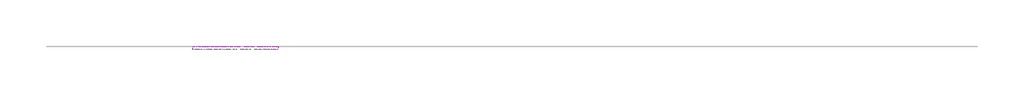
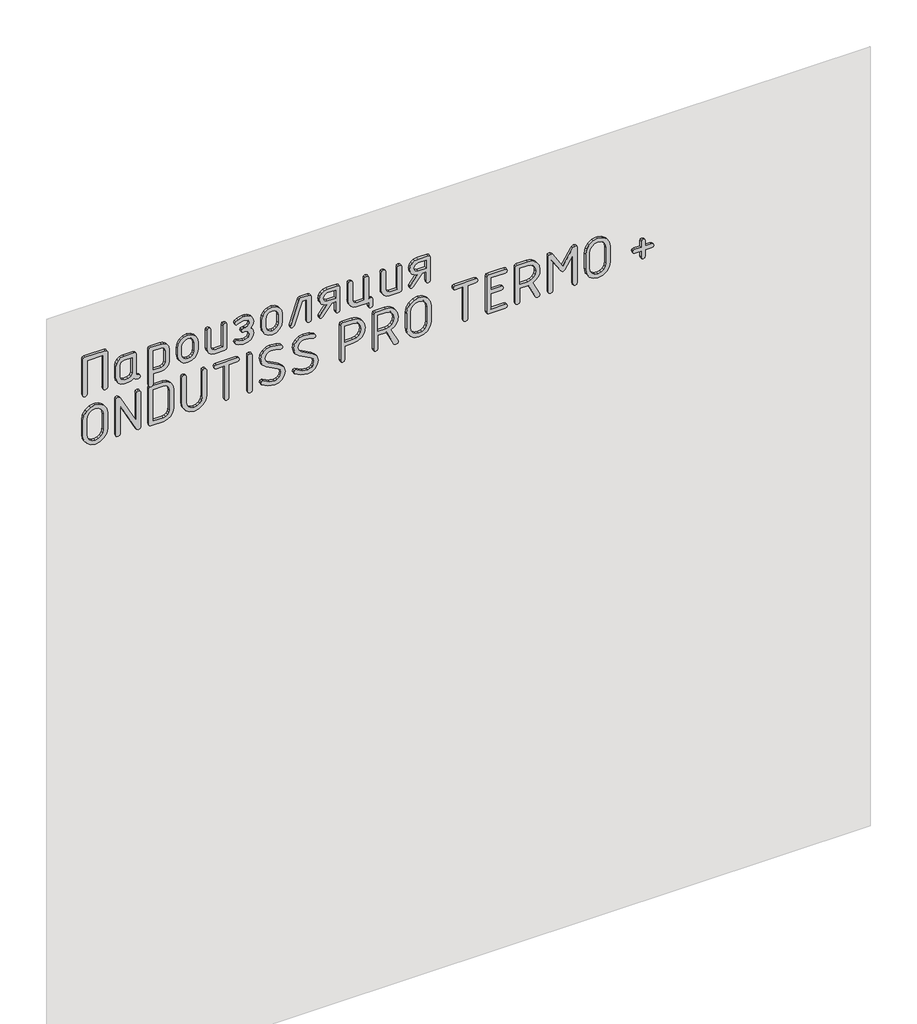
# One storey, part 30 of 42: 1 proxy.
"""IFC4 building model written with IfcOpenShell, lengths in millimetres."""

from ifc_helpers import new_model, si_unit, frame, origin, place, context, project, spatial, polyline, outline, extrude, element, save

model = new_model("IFC4")

# Units and contexts
model_context = context("Model", 3, world=origin())
ifc_project = project(units=[si_unit("LENGTHUNIT", "METRE", prefix="MILLI")], contexts=[model_context])

# Site, building, storey
site = spatial("IfcSite", under=ifc_project)
building = spatial("IfcBuilding", under=site)
storey = spatial("IfcBuildingStorey", under=building, Name="Этаж 01", Elevation=0.0)

# Proxy
placement = place(None, origin())
element("IfcBuildingElementProxy", 1, Name="150 мм GOST Common", ObjectType="150 мм GOST Common", at=placement, inside=storey, context=model_context, shape_type="SweptSolid", body=[
    extrude(outline(polyline([(2813.534126, -10703.1472358), (2811.6464128, -10708.750448), (2805.9832732, -10710.6181854), (2670.2277293, -10710.6181854), (2664.5645897, -10708.7005085), (2662.6768765, -10702.9474778), (2664.5546018, -10697.1944471), (2670.1877777, -10695.2767702), (2798.1927108, -10695.2767702), (2798.1927108, -10636.468012), (2670.1877777, -10636.468012), (2664.5546018, -10634.5503351), (2662.6768765, -10628.7973044), (2664.5645897, -10623.0442737), (2670.2277293, -10621.1265968), (2805.9832732, -10621.1265968), (2811.6464128, -10622.9943342), (2813.534126, -10628.5975464), (2813.534126, -10703.1472358)])), frame((0.0, -24838.3929597, 0.0), z_axis=(0.0, 1.0, 0.0), x_axis=(0.0, 0.0, 1.0)), (0.0, 0.0, 1.0), 10.0),
    extrude(outline(polyline([(2670.1478261, -10501.3117421), (2675.781002, -10503.1844735), (2677.6587273, -10508.8026675), (2679.5264647, -10514.4208616), (2685.1296769, -10516.2935929), (2760.0389308, -10516.2935929), (2765.642143, -10518.1513424), (2767.5098804, -10523.7245909), (2767.5098804, -10560.7996776), (2765.342506, -10572.2957511), (2758.8403827, -10581.8541719), (2749.1820829, -10588.2963678), (2737.5461788, -10590.4437664), (2692.6405781, -10590.4437664), (2681.004674, -10588.2963678), (2671.3463742, -10581.8541719), (2664.8442509, -10572.2957511), (2662.6768765, -10560.7996776), (2662.6768765, -10545.9376817), (2664.6644687, -10534.960979), (2670.6272453, -10525.8420258), (2664.6644687, -10518.2612093), (2662.6768765, -10508.7826917), (2664.5446139, -10503.1794795), (2670.1478261, -10501.3117421)]), holes=[polyline([(2752.1684652, -10531.6350081), (2692.8403361, -10531.6350081), (2682.3530405, -10535.8698779), (2678.0182917, -10546.1374397), (2678.0182917, -10560.5999196), (2682.3929921, -10570.8275298), (2692.8403361, -10575.1023512), (2737.3464208, -10575.1023512), (2747.8337163, -10570.8674814), (2752.1684652, -10560.5999196), (2752.1684652, -10531.6350081)])]), frame((0.0, -24838.3929597, 0.0), z_axis=(0.0, 1.0, 0.0), x_axis=(0.0, 0.0, 1.0)), (0.0, 0.0, 1.0), 10.0),
    extrude(outline(polyline([(2759.9590276, -10470.2693473), (2624.2034837, -10470.2693473), (2618.5403441, -10468.3516704), (2616.6526309, -10462.5986397), (2618.5703078, -10456.845609), (2624.3233385, -10454.9279321), (2662.6768765, -10454.9279321), (2662.6768765, -10425.523553), (2664.8592328, -10414.1323525), (2671.4063016, -10404.6488409), (2681.0795832, -10398.2515906), (2692.6405781, -10396.1191739), (2737.5461788, -10396.1191739), (2749.1820829, -10398.2665725), (2758.8403827, -10404.7087683), (2765.342506, -10414.2671891), (2767.5098804, -10425.7632626), (2767.5098804, -10462.8383493), (2765.6221672, -10468.4115978), (2759.9590276, -10470.2693473)]), holes=[polyline([(2752.1684652, -10454.9279321), (2752.1684652, -10425.9630206), (2747.8936437, -10415.6355315), (2737.3464208, -10411.4605891), (2692.8403361, -10411.4605891), (2682.3530405, -10415.6954589), (2678.0182917, -10425.9630206), (2678.0182917, -10454.9279321), (2752.1684652, -10454.9279321)])]), frame((0.0, -24838.3929597, 0.0), z_axis=(0.0, 1.0, 0.0), x_axis=(0.0, 0.0, 1.0)), (0.0, 0.0, 1.0), 10.0),
    extrude(outline(polyline([(2700.1115277, -10365.4363435), (2685.718963, -10362.7246285), (2673.6236155, -10354.5894835), (2665.4135613, -10342.6089968), (2662.6768765, -10328.3612568), (2665.4135613, -10314.1135167), (2673.6236155, -10302.13303), (2685.718963, -10293.997885), (2700.1115277, -10291.28617), (2730.0752292, -10291.28617), (2744.6176124, -10293.9679213), (2756.6829962, -10302.0131752), (2764.8031593, -10313.9636982), (2767.5098804, -10328.3612568), (2764.7731956, -10342.6089968), (2756.5631414, -10354.5894835), (2744.4677939, -10362.7246285), (2730.0752292, -10365.4363435), (2700.1115277, -10365.4363435)]), holes=[polyline([(2700.5509953, -10306.6275852), (2691.8914855, -10308.2206554), (2684.6103061, -10312.9998658), (2679.6662953, -10320.0263538), (2678.0182917, -10328.3612568), (2679.6563074, -10336.771069), (2684.5703545, -10343.7825752), (2691.841546, -10348.51684), (2700.5509953, -10350.0949283), (2730.5546484, -10350.0949283), (2739.1841945, -10348.5018582), (2746.4553861, -10343.7226478), (2751.3993968, -10336.6961597), (2753.0474004, -10328.3612568), (2751.3993968, -10320.0263538), (2746.4553861, -10312.9998658), (2739.1841945, -10308.2206554), (2730.5546484, -10306.6275852), (2700.5509953, -10306.6275852)])]), frame((0.0, -24838.3929597, 0.0), z_axis=(0.0, 1.0, 0.0), x_axis=(0.0, 0.0, 1.0)), (0.0, 0.0, 1.0), 10.0),
    extrude(outline(polyline([(2760.0389308, -10186.4531662), (2765.642143, -10188.3708431), (2767.5098804, -10194.1238738), (2765.642143, -10199.8769045), (2760.0389308, -10201.7945814), (2678.0182917, -10201.7945814), (2678.0182917, -10230.7594929), (2682.4329437, -10240.987103), (2692.9202393, -10245.2619244), (2760.0389308, -10245.2619244), (2765.642143, -10247.1796013), (2767.5098804, -10252.932632), (2765.642143, -10258.6856627), (2760.0389308, -10260.6033396), (2692.6405781, -10260.6033396), (2681.004674, -10258.455941), (2671.3463742, -10252.0137452), (2664.8442509, -10242.4553244), (2662.6768765, -10230.9592509), (2662.6768765, -10193.8841642), (2664.5446139, -10188.3109157), (2670.1478261, -10186.4531662), (2760.0389308, -10186.4531662)])), frame((0.0, -24838.3929597, 0.0), z_axis=(0.0, 1.0, 0.0), x_axis=(0.0, 0.0, 1.0)), (0.0, 0.0, 1.0), 10.0),
    extrude(outline(polyline([(2693.3996585, -10104.6322851), (2682.5128469, -10109.0069856), (2678.0182917, -10119.6540875), (2678.0182917, -10127.1649887), (2681.8336697, -10142.2067669), (2685.6490477, -10151.335708), (2682.9323388, -10155.450723), (2677.6587273, -10157.1686419), (2671.7059386, -10154.1223322), (2666.6320851, -10144.9834032), (2662.6768765, -10127.1649887), (2662.6768765, -10119.6540875), (2664.8991844, -10107.9682439), (2671.566108, -10098.1601256), (2681.4591234, -10091.5081838), (2693.3597069, -10089.2908699), (2707.1829612, -10091.9376636), (2716.3718297, -10099.8780445), (2725.0113637, -10091.9376636), (2738.3052592, -10089.2908699), (2749.6215505, -10091.5081838), (2759.0401407, -10098.1601256), (2765.3924455, -10107.9682439), (2767.5098804, -10119.6540875), (2767.5098804, -10127.1649887), (2763.434817, -10144.8635484), (2758.2710724, -10154.0923685), (2752.5280296, -10157.1686419), (2747.2743939, -10155.450723), (2744.5377092, -10151.4555628), (2748.3530872, -10142.5463555), (2752.1684652, -10127.1649887), (2752.1684652, -10119.6540875), (2748.1133776, -10108.967034), (2738.1055012, -10104.6322851), (2728.0976249, -10108.6673969), (2724.0425373, -10120.3332647), (2724.0425373, -10122.7303609), (2724.0425373, -10125.0076022), (2721.7852718, -10132.4186244), (2716.3318781, -10134.6359383), (2710.8984602, -10132.4785518), (2708.7011221, -10127.1649887), (2708.7011221, -10117.496701), (2704.7459135, -10108.6274453), (2693.3996585, -10104.6322851)])), frame((0.0, -24838.3929597, 0.0), z_axis=(0.0, 1.0, 0.0), x_axis=(0.0, 0.0, 1.0)), (0.0, 0.0, 1.0), 10.0),
    extrude(outline(polyline([(2700.1115277, -10058.6080395), (2685.718963, -10055.8963245), (2673.6236155, -10047.7611796), (2665.4135613, -10035.7806929), (2662.6768765, -10021.5329528), (2665.4135613, -10007.2852127), (2673.6236155, -9995.304726), (2685.718963, -9987.1695811), (2700.1115277, -9984.4578661), (2730.0752292, -9984.4578661), (2744.6176124, -9987.1396174), (2756.6829962, -9995.1848712), (2764.8031593, -10007.1353942), (2767.5098804, -10021.5329528), (2764.7731956, -10035.7806929), (2756.5631414, -10047.7611796), (2744.4677939, -10055.8963245), (2730.0752292, -10058.6080395), (2700.1115277, -10058.6080395)]), holes=[polyline([(2700.5509953, -9999.7992813), (2691.8914855, -10001.3923514), (2684.6103061, -10006.1715618), (2679.6662953, -10013.1980498), (2678.0182917, -10021.5329528), (2679.6563074, -10029.942765), (2684.5703545, -10036.9542712), (2691.841546, -10041.6885361), (2700.5509953, -10043.2666243), (2730.5546484, -10043.2666243), (2739.1841945, -10041.6735542), (2746.4553861, -10036.8943438), (2751.3993968, -10029.8678558), (2753.0474004, -10021.5329528), (2751.3993968, -10013.1980498), (2746.4553861, -10006.1715618), (2739.1841945, -10001.3923514), (2730.5546484, -9999.7992813), (2700.5509953, -9999.7992813)])]), frame((0.0, -24838.3929597, 0.0), z_axis=(0.0, 1.0, 0.0), x_axis=(0.0, 0.0, 1.0)), (0.0, 0.0, 1.0), 10.0),
    extrude(outline(polyline([(2767.5098804, -9917.4590294), (2765.9817316, -9922.0534636), (2761.3972852, -9924.9699306), (2672.5449222, -9954.6140193), (2670.2676809, -9954.9735837), (2664.5745776, -9953.0958584), (2662.6768765, -9947.4626826), (2667.75073, -9940.391249), (2752.1684652, -9912.1055147), (2752.1684652, -9894.9662774), (2670.1478261, -9894.9662774), (2664.5446139, -9893.0486005), (2662.6768765, -9887.2955698), (2664.5446139, -9881.5425391), (2670.1478261, -9879.6248622), (2760.0389308, -9879.6248622), (2765.642143, -9881.5425391), (2767.5098804, -9887.2955698), (2767.5098804, -9917.4590294)])), frame((0.0, -24838.3929597, 0.0), z_axis=(0.0, 1.0, 0.0), x_axis=(0.0, 0.0, 1.0)), (0.0, 0.0, 1.0), 10.0),
    extrude(outline(polyline([(2707.8221869, -9823.4129581), (2674.7023087, -9848.6623706), (2670.1478261, -9850.1405799), (2664.5446139, -9848.2628546), (2662.6768765, -9842.6296787), (2665.7531499, -9836.5969868), (2707.6623805, -9805.354834), (2707.6623805, -9790.1332736), (2670.1877777, -9790.1332736), (2664.5546018, -9788.2155967), (2662.6768765, -9782.462566), (2664.5446139, -9776.7095353), (2670.1478261, -9774.7918584), (2760.0389308, -9774.7918584), (2765.642143, -9776.7095353), (2767.5098804, -9782.462566), (2767.5098804, -9820.1369267), (2765.342506, -9831.752855), (2758.8403827, -9841.4311306), (2749.1820829, -9847.9632176), (2737.5461788, -9850.1405799), (2726.784216, -9848.2478727), (2717.5903536, -9842.5697513), (2710.9434058, -9833.9951387), (2707.8221869, -9823.4129581)]), holes=[polyline([(2737.1466628, -9835.1187775), (2747.7937647, -9830.7440771), (2752.1684652, -9820.1369267), (2752.1684652, -9790.1332736), (2722.164812, -9790.1332736), (2722.164812, -9820.1369267), (2726.5994398, -9830.6841497), (2737.1466628, -9835.1187775)])]), frame((0.0, -24838.3929597, 0.0), z_axis=(0.0, 1.0, 0.0), x_axis=(0.0, 0.0, 1.0)), (0.0, 0.0, 1.0), 10.0),
    extrude(outline(polyline([(2678.0182917, -9662.2881469), (2678.0182917, -9669.9588545), (2760.0389308, -9669.9588545), (2765.642143, -9671.8765314), (2767.5098804, -9677.6295621), (2765.642143, -9683.3825928), (2760.0389308, -9685.3002697), (2678.0182917, -9685.3002697), (2678.0182917, -9714.2651812), (2682.4329437, -9724.4927914), (2692.9202393, -9728.7676128), (2760.0389308, -9728.7676128), (2765.642143, -9730.6852897), (2767.5098804, -9736.4383204), (2765.642143, -9742.1913511), (2760.0389308, -9744.109028), (2692.6405781, -9744.109028), (2681.0795832, -9741.9616294), (2671.4063016, -9735.5194335), (2664.8592328, -9725.9610127), (2662.6768765, -9714.4649392), (2662.6768765, -9669.9588545), (2647.3354613, -9669.9588545), (2641.5824306, -9668.0411776), (2639.6647537, -9662.2881469), (2641.5824306, -9656.5351162), (2647.3354613, -9654.6174393), (2670.3475841, -9654.6174393), (2676.1006148, -9656.5351162), (2678.0182917, -9662.2881469)])), frame((0.0, -24838.3929597, 0.0), z_axis=(0.0, 1.0, 0.0), x_axis=(0.0, 0.0, 1.0)), (0.0, 0.0, 1.0), 10.0),
    extrude(outline(polyline([(2760.0389308, -9549.7844355), (2765.642143, -9551.7021124), (2767.5098804, -9557.4551431), (2765.642143, -9563.2081738), (2760.0389308, -9565.1258507), (2678.0182917, -9565.1258507), (2678.0182917, -9594.0907622), (2682.4329437, -9604.3183723), (2692.9202393, -9608.5931937), (2760.0389308, -9608.5931937), (2765.642143, -9610.5108706), (2767.5098804, -9616.2639013), (2765.642143, -9622.016932), (2760.0389308, -9623.9346089), (2692.6405781, -9623.9346089), (2681.004674, -9621.7872103), (2671.3463742, -9615.3450145), (2664.8442509, -9605.7865937), (2662.6768765, -9594.2905202), (2662.6768765, -9557.2154335), (2664.5446139, -9551.642185), (2670.1478261, -9549.7844355), (2760.0389308, -9549.7844355)])), frame((0.0, -24838.3929597, 0.0), z_axis=(0.0, 1.0, 0.0), x_axis=(0.0, 0.0, 1.0)), (0.0, 0.0, 1.0), 10.0),
    extrude(outline(polyline([(2707.8221869, -9493.5725314), (2674.7023087, -9518.8219439), (2670.1478261, -9520.3001532), (2664.5446139, -9518.4224279), (2662.6768765, -9512.789252), (2665.7531499, -9506.75656), (2707.6623805, -9475.5144072), (2707.6623805, -9460.2928468), (2670.1877777, -9460.2928468), (2664.5546018, -9458.3751699), (2662.6768765, -9452.6221392), (2664.5446139, -9446.8691085), (2670.1478261, -9444.9514316), (2760.0389308, -9444.9514316), (2765.642143, -9446.8691085), (2767.5098804, -9452.6221392), (2767.5098804, -9490.2965), (2765.342506, -9501.9124283), (2758.8403827, -9511.5907039), (2749.1820829, -9518.1227908), (2737.5461788, -9520.3001532), (2726.784216, -9518.407446), (2717.5903536, -9512.7293246), (2710.9434058, -9504.154712), (2707.8221869, -9493.5725314)]), holes=[polyline([(2737.1466628, -9505.2783508), (2747.7937647, -9500.9036503), (2752.1684652, -9490.2965), (2752.1684652, -9460.2928468), (2722.164812, -9460.2928468), (2722.164812, -9490.2965), (2726.5994398, -9500.8437229), (2737.1466628, -9505.2783508)])]), frame((0.0, -24838.3929597, 0.0), z_axis=(0.0, 1.0, 0.0), x_axis=(0.0, 0.0, 1.0)), (0.0, 0.0, 1.0), 10.0),
    extrude(outline(polyline([(2511.9177961, -10621.1265968), (2572.2447152, -10621.1265968), (2589.6885835, -10624.3876463), (2604.3058759, -10634.1707949), (2614.2088792, -10648.618293), (2617.5098804, -10665.8723911), (2614.1938974, -10683.05158), (2604.2459485, -10697.5140599), (2589.6136742, -10707.3421541), (2572.2447152, -10710.6181854), (2511.9177961, -10710.6181854), (2494.5488371, -10707.3421541), (2479.9165628, -10697.5140599), (2469.9686139, -10683.05158), (2466.6526309, -10665.8723911), (2469.9686139, -10648.6932022), (2479.9165628, -10634.2307223), (2494.5488371, -10624.4026281), (2511.9177961, -10621.1265968)]), holes=[polyline([(2512.0376509, -10636.468012), (2500.3917589, -10638.6004287), (2490.7034954, -10644.997679), (2484.1714084, -10654.4811906), (2481.9940461, -10665.8723911), (2484.1714084, -10677.2635916), (2490.7034954, -10686.7471032), (2500.3917589, -10693.1443535), (2512.0376509, -10695.2767702), (2572.1248604, -10695.2767702), (2583.7707524, -10693.1443535), (2593.4590159, -10686.7471032), (2599.9911029, -10677.2635916), (2602.1684652, -10665.8723911), (2599.9911029, -10654.4811906), (2593.4590159, -10644.997679), (2583.7707524, -10638.6004287), (2572.1248604, -10636.468012), (2512.0376509, -10636.468012)])]), frame((0.0, -24838.3929597, 0.0), z_axis=(0.0, 1.0, 0.0), x_axis=(0.0, 0.0, 1.0)), (0.0, 0.0, 1.0), 10.0),
    extrude(outline(polyline([(2503.3282016, -10516.2935929), (2613.0353009, -10575.1023512), (2617.5098804, -10582.453446), (2615.6221672, -10588.4461863), (2609.9590276, -10590.4437664), (2474.2034837, -10590.4437664), (2468.5403441, -10588.5260895), (2466.6526309, -10582.7730588), (2468.5403441, -10577.0200281), (2474.2034837, -10575.1023512), (2580.9541645, -10575.1023512), (2470.4080815, -10516.2935929), (2466.6526309, -10509.1023046), (2468.5403441, -10502.9897094), (2474.2034837, -10500.9521777), (2609.9590276, -10500.9521777), (2615.6221672, -10502.8698546), (2617.5098804, -10508.6228853), (2615.6221672, -10514.375916), (2609.9590276, -10516.2935929), (2503.3282016, -10516.2935929)])), frame((0.0, -24838.3929597, 0.0), z_axis=(0.0, 1.0, 0.0), x_axis=(0.0, 0.0, 1.0)), (0.0, 0.0, 1.0), 10.0),
    extrude(outline(polyline([(2609.9590276, -10470.2693473), (2474.2034837, -10470.2693473), (2468.5403441, -10468.4016099), (2466.6526309, -10462.7983977), (2466.6526309, -10418.0526034), (2469.4092915, -10403.7299541), (2477.6792731, -10391.684546), (2489.8645117, -10383.5044555), (2504.3669433, -10380.7777587), (2579.795568, -10380.7777587), (2594.4478181, -10383.4744918), (2606.603093, -10391.5646912), (2614.7831835, -10403.5801356), (2617.5098804, -10418.0526034), (2617.5098804, -10462.7983977), (2615.6221672, -10468.4016099), (2609.9590276, -10470.2693473)]), holes=[polyline([(2602.1684652, -10454.9279321), (2602.1684652, -10418.1724582), (2600.5204616, -10409.6977246), (2595.5764508, -10402.5713576), (2588.2952713, -10397.7322198), (2579.6357616, -10396.1191739), (2504.5267497, -10396.1191739), (2495.8672399, -10397.7322198), (2488.5860605, -10402.5713576), (2483.6420497, -10409.6977246), (2481.9940461, -10418.1724582), (2481.9940461, -10454.9279321), (2602.1684652, -10454.9279321)])]), frame((0.0, -24838.3929597, 0.0), z_axis=(0.0, 1.0, 0.0), x_axis=(0.0, 0.0, 1.0)), (0.0, 0.0, 1.0), 10.0),
    extrude(outline(polyline([(2609.9590276, -10260.6033396), (2615.6221672, -10262.5210165), (2617.5098804, -10268.2740472), (2615.6321551, -10274.0270779), (2609.9989792, -10275.9447548), (2512.1175541, -10275.9447548), (2500.4367044, -10278.0771716), (2490.7234712, -10284.4744219), (2484.1764024, -10293.9579334), (2481.9940461, -10305.349134), (2484.1764024, -10316.7403345), (2490.7234712, -10326.223846), (2500.4367044, -10332.6210963), (2512.1175541, -10334.7535131), (2609.9989792, -10334.7535131), (2615.6321551, -10336.67119), (2617.5098804, -10342.4242207), (2615.6221672, -10348.1772514), (2609.9590276, -10350.0949283), (2511.9177961, -10350.0949283), (2494.5488371, -10346.8188969), (2479.9165628, -10336.9908028), (2469.9686139, -10322.5283229), (2466.6526309, -10305.349134), (2469.9686139, -10288.1699451), (2479.9165628, -10273.7074651), (2494.5488371, -10263.879371), (2511.9177961, -10260.6033396), (2609.9590276, -10260.6033396)])), frame((0.0, -24838.3929597, 0.0), z_axis=(0.0, 1.0, 0.0), x_axis=(0.0, 0.0, 1.0)), (0.0, 0.0, 1.0), 10.0),
    extrude(outline(polyline([(2609.8391728, -10231.6384281), (2604.0861421, -10229.7607028), (2602.1684652, -10224.1275269), (2602.1684652, -10194.1238738), (2474.1635321, -10194.1238738), (2468.5303562, -10192.2061969), (2466.6526309, -10186.4531662), (2468.5303562, -10180.7001355), (2474.1635321, -10178.7824586), (2602.1684652, -10178.7824586), (2602.1684652, -10148.7788054), (2604.0861421, -10143.1755932), (2609.8391728, -10141.3078558), (2615.5922035, -10143.1755932), (2617.5098804, -10148.7788054), (2617.5098804, -10224.1275269), (2615.5922035, -10229.7607028), (2609.8391728, -10231.6384281)])), frame((0.0, -24838.3929597, 0.0), z_axis=(0.0, 1.0, 0.0), x_axis=(0.0, 0.0, 1.0)), (0.0, 0.0, 1.0), 10.0),
    extrude(outline(polyline([(2466.6526309, -10102.0753826), (2468.5403441, -10096.3223519), (2474.2034837, -10094.404675), (2609.9590276, -10094.404675), (2615.6221672, -10096.3223519), (2617.5098804, -10102.0753826), (2615.6221672, -10107.8284133), (2609.9590276, -10109.7460902), (2474.2034837, -10109.7460902), (2468.5403441, -10107.8284133), (2466.6526309, -10102.0753826)])), frame((0.0, -24838.3929597, 0.0), z_axis=(0.0, 1.0, 0.0), x_axis=(0.0, 0.0, 1.0)), (0.0, 0.0, 1.0), 10.0),
    extrude(outline(polyline([(2504.2870401, -9974.2302559), (2524.1429863, -9979.3140973), (2537.8463858, -9994.5656214), (2559.5001542, -10036.2351424), (2567.6602689, -10045.3441076), (2579.59581, -10048.3804294), (2588.2603137, -10046.7673835), (2595.556475, -10041.9282457), (2600.5154676, -10034.8018786), (2602.1684652, -10026.3271451), (2600.4904979, -10009.567448), (2595.456596, -9992.6878961), (2594.657564, -9989.5716711), (2596.8748779, -9984.2780839), (2602.1684652, -9982.06077), (2609.1599955, -9986.4953978), (2615.4224092, -10003.4648408), (2617.5098804, -10026.6467579), (2614.7432319, -10040.8195887), (2606.4432866, -10052.8150572), (2594.2680359, -10060.9951478), (2579.8754712, -10063.7218446), (2560.0494887, -10058.6979306), (2546.4359803, -10043.6261888), (2524.7822119, -10001.9167162), (2516.5322061, -9992.6579324), (2504.5667013, -9989.5716711), (2495.9021976, -9991.1996989), (2488.6060363, -9996.0837823), (2483.6470437, -10003.2750707), (2481.9940461, -10011.8247135), (2485.1901743, -10031.6007565), (2495.657494, -10052.0559768), (2497.0158485, -10056.2908466), (2494.7985346, -10061.5245065), (2489.5049473, -10063.7218446), (2483.3923522, -10060.4458132), (2470.8375612, -10037.5235815), (2466.6526309, -10011.5051007), (2469.4192794, -9997.2573606), (2477.7192247, -9985.1969707), (2489.8944754, -9976.9719346), (2504.2870401, -9974.2302559)])), frame((0.0, -24838.3929597, 0.0), z_axis=(0.0, 1.0, 0.0), x_axis=(0.0, 0.0, 1.0)), (0.0, 0.0, 1.0), 10.0),
    extrude(outline(polyline([(2504.2870401, -9854.0558369), (2524.1429863, -9859.1396783), (2537.8463858, -9874.3912024), (2559.5001542, -9916.0607233), (2567.6602689, -9925.1696886), (2579.59581, -9928.2060104), (2588.2603137, -9926.5929644), (2595.556475, -9921.7538266), (2600.5154676, -9914.6274596), (2602.1684652, -9906.152726), (2600.4904979, -9889.3930289), (2595.456596, -9872.5134771), (2594.657564, -9869.3972521), (2596.8748779, -9864.1036648), (2602.1684652, -9861.8863509), (2609.1599955, -9866.3209787), (2615.4224092, -9883.2904217), (2617.5098804, -9906.4723388), (2614.7432319, -9920.6451697), (2606.4432866, -9932.6406382), (2594.2680359, -9940.8207287), (2579.8754712, -9943.5474256), (2560.0494887, -9938.5235116), (2546.4359803, -9923.4517697), (2524.7822119, -9881.7422971), (2516.5322061, -9872.4835134), (2504.5667013, -9869.3972521), (2495.9021976, -9871.0252799), (2488.6060363, -9875.9093632), (2483.6470437, -9883.1006516), (2481.9940461, -9891.6502945), (2485.1901743, -9911.4263375), (2495.657494, -9931.8815577), (2497.0158485, -9936.1164276), (2494.7985346, -9941.3500874), (2489.5049473, -9943.5474256), (2483.3923522, -9940.2713942), (2470.8375612, -9917.3491625), (2466.6526309, -9891.3306816), (2469.4192794, -9877.0829415), (2477.7192247, -9865.0225517), (2489.8944754, -9856.7975156), (2504.2870401, -9854.0558369)])), frame((0.0, -24838.3929597, 0.0), z_axis=(0.0, 1.0, 0.0), x_axis=(0.0, 0.0, 1.0)), (0.0, 0.0, 1.0), 10.0),
    extrude(outline(polyline([(2617.5098804, -9764.7640063), (2615.6221672, -9770.3672185), (2609.9590276, -9772.2349558), (2474.2034837, -9772.2349558), (2468.5403441, -9770.3172789), (2466.6526309, -9764.5642482), (2468.4904046, -9758.8112175), (2474.0037257, -9756.8935406), (2525.4613892, -9756.8935406), (2525.4613892, -9727.2494519), (2528.6575173, -9709.3261644), (2538.2459018, -9695.108388), (2552.9480914, -9685.8346224), (2571.4856348, -9682.7433672), (2589.2241461, -9686.0044167), (2604.0861421, -9695.7875653), (2614.1539458, -9710.2350634), (2617.5098804, -9727.4891615), (2617.5098804, -9764.7640063)]), holes=[polyline([(2602.1684652, -9756.8935406), (2602.1684652, -9727.4891615), (2599.9461573, -9716.097961), (2593.2792337, -9706.6144494), (2583.3862182, -9700.2171992), (2571.4856348, -9698.0847824), (2559.5850513, -9700.2171992), (2549.6920358, -9706.6144494), (2543.0251122, -9716.097961), (2540.8028044, -9727.4891615), (2540.8028044, -9756.8935406), (2602.1684652, -9756.8935406)])]), frame((0.0, -24838.3929597, 0.0), z_axis=(0.0, 1.0, 0.0), x_axis=(0.0, 0.0, 1.0)), (0.0, 0.0, 1.0), 10.0),
    extrude(outline(polyline([(2530.1756782, -9588.7372475), (2536.8800565, -9577.2886165), (2546.1263554, -9569.111023), (2557.9145749, -9564.2044669), (2572.2447152, -9562.5689481), (2589.6885835, -9565.8299977), (2604.3058759, -9575.6131462), (2614.2088792, -9590.0606443), (2617.5098804, -9607.3147425), (2617.5098804, -9644.5895872), (2615.6221672, -9650.1927994), (2609.9590276, -9652.0605368), (2474.2034837, -9652.0605368), (2468.5403441, -9650.1428599), (2466.6526309, -9644.3898292), (2468.4904046, -9638.6367985), (2474.0037257, -9636.7191216), (2525.4613892, -9636.7191216), (2525.4613892, -9607.6343553), (2525.581244, -9604.9975496), (2470.7676459, -9577.9103633), (2466.6526309, -9570.5992202), (2468.9298722, -9565.0059959), (2474.2034837, -9562.5689481), (2477.6393215, -9562.5689481), (2530.1756782, -9588.7372475)]), holes=[polyline([(2602.1684652, -9636.7191216), (2602.1684652, -9607.3147425), (2599.9461573, -9595.9235419), (2593.2792337, -9586.4400304), (2583.3862182, -9580.0427801), (2571.4856348, -9577.9103633), (2559.5850513, -9580.0427801), (2549.6920358, -9586.4400304), (2543.0251122, -9595.9235419), (2540.8028044, -9607.3147425), (2540.8028044, -9636.7191216), (2602.1684652, -9636.7191216)])]), frame((0.0, -24838.3929597, 0.0), z_axis=(0.0, 1.0, 0.0), x_axis=(0.0, 0.0, 1.0)), (0.0, 0.0, 1.0), 10.0),
    extrude(outline(polyline([(2511.9177961, -9442.3945291), (2572.2447152, -9442.3945291), (2589.6885835, -9445.6555786), (2604.3058759, -9455.4387272), (2614.2088792, -9469.8862253), (2617.5098804, -9487.1403234), (2614.1938974, -9504.3195123), (2604.2459485, -9518.7819923), (2589.6136742, -9528.6100864), (2572.2447152, -9531.8861178), (2511.9177961, -9531.8861178), (2494.5488371, -9528.6100864), (2479.9165628, -9518.7819923), (2469.9686139, -9504.3195123), (2466.6526309, -9487.1403234), (2469.9686139, -9469.9611345), (2479.9165628, -9455.4986546), (2494.5488371, -9445.6705605), (2511.9177961, -9442.3945291)]), holes=[polyline([(2512.0376509, -9457.7359443), (2500.3917589, -9459.8683611), (2490.7034954, -9466.2656113), (2484.1714084, -9475.7491229), (2481.9940461, -9487.1403234), (2484.1714084, -9498.531524), (2490.7034954, -9508.0150355), (2500.3917589, -9514.4122858), (2512.0376509, -9516.5447026), (2572.1248604, -9516.5447026), (2583.7707524, -9514.4122858), (2593.4590159, -9508.0150355), (2599.9911029, -9498.531524), (2602.1684652, -9487.1403234), (2599.9911029, -9475.7491229), (2593.4590159, -9466.2656113), (2583.7707524, -9459.8683611), (2572.1248604, -9457.7359443), (2512.0376509, -9457.7359443)])]), frame((0.0, -24838.3929597, 0.0), z_axis=(0.0, 1.0, 0.0), x_axis=(0.0, 0.0, 1.0)), (0.0, 0.0, 1.0), 10.0),
    extrude(outline(polyline([(2609.8391728, -9362.2915669), (2604.0861421, -9360.4138416), (2602.1684652, -9354.7806657), (2602.1684652, -9324.7770126), (2474.1635321, -9324.7770126), (2468.5303562, -9322.8593357), (2466.6526309, -9317.106305), (2468.5303562, -9311.3532743), (2474.1635321, -9309.4355974), (2602.1684652, -9309.4355974), (2602.1684652, -9279.4319442), (2604.0861421, -9273.828732), (2609.8391728, -9271.9609946), (2615.5922035, -9273.828732), (2617.5098804, -9279.4319442), (2617.5098804, -9354.7806657), (2615.5922035, -9360.4138416), (2609.8391728, -9362.2915669)])), frame((0.0, -24838.3929597, 0.0), z_axis=(0.0, 1.0, 0.0), x_axis=(0.0, 0.0, 1.0)), (0.0, 0.0, 1.0), 10.0),
    extrude(outline(polyline([(2474.2034837, -9240.399229), (2468.5403441, -9238.4815521), (2466.6526309, -9232.7285214), (2466.6526309, -9172.5614087), (2468.5703078, -9166.9282328), (2474.3233385, -9165.0505075), (2480.0763692, -9166.9282328), (2481.9940461, -9172.5614087), (2481.9940461, -9225.0578138), (2540.8028044, -9225.0578138), (2540.8028044, -9187.5432595), (2542.7204813, -9181.9400473), (2548.473512, -9180.0723099), (2554.2265427, -9181.9400473), (2556.1442196, -9187.5432595), (2556.1442196, -9225.0578138), (2602.1684652, -9225.0578138), (2602.1684652, -9172.5614087), (2604.0861421, -9166.9282328), (2609.8391728, -9165.0505075), (2615.5922035, -9166.9282328), (2617.5098804, -9172.5614087), (2617.5098804, -9232.7285214), (2615.6221672, -9238.4815521), (2609.9590276, -9240.399229), (2474.2034837, -9240.399229)])), frame((0.0, -24838.3929597, 0.0), z_axis=(0.0, 1.0, 0.0), x_axis=(0.0, 0.0, 1.0)), (0.0, 0.0, 1.0), 10.0),
    extrude(outline(polyline([(2530.1756782, -9072.2429359), (2536.8800565, -9060.7943049), (2546.1263554, -9052.6167113), (2557.9145749, -9047.7101552), (2572.2447152, -9046.0746365), (2589.6885835, -9049.335686), (2604.3058759, -9059.1188346), (2614.2088792, -9073.5663327), (2617.5098804, -9090.8204308), (2617.5098804, -9128.0952756), (2615.6221672, -9133.6984878), (2609.9590276, -9135.5662252), (2474.2034837, -9135.5662252), (2468.5403441, -9133.6485483), (2466.6526309, -9127.8955176), (2468.4904046, -9122.1424869), (2474.0037257, -9120.22481), (2525.4613892, -9120.22481), (2525.4613892, -9091.1400436), (2525.581244, -9088.5032379), (2470.7676459, -9061.4160517), (2466.6526309, -9054.1049085), (2468.9298722, -9048.5116842), (2474.2034837, -9046.0746365), (2477.6393215, -9046.0746365), (2530.1756782, -9072.2429359)]), holes=[polyline([(2602.1684652, -9120.22481), (2602.1684652, -9090.8204308), (2599.9461573, -9079.4292303), (2593.2792337, -9069.9457187), (2583.3862182, -9063.5484685), (2571.4856348, -9061.4160517), (2559.5850513, -9063.5484685), (2549.6920358, -9069.9457187), (2543.0251122, -9079.4292303), (2540.8028044, -9090.8204308), (2540.8028044, -9120.22481), (2602.1684652, -9120.22481)])]), frame((0.0, -24838.3929597, 0.0), z_axis=(0.0, 1.0, 0.0), x_axis=(0.0, 0.0, 1.0)), (0.0, 0.0, 1.0), 10.0),
    extrude(outline(polyline([(2617.5098804, -8918.8687355), (2614.1938974, -8925.9002175), (2555.7846552, -8963.095159), (2613.7544298, -9000.0503909), (2617.5098804, -9007.2416793), (2615.6221672, -9013.3542744), (2609.9590276, -9015.3918061), (2474.2034837, -9015.3918061), (2468.5403441, -9013.4741292), (2466.6526309, -9007.7210985), (2468.5403441, -9001.9680678), (2474.2034837, -9000.0503909), (2585.1490827, -9000.0503909), (2539.3245951, -8969.9268829), (2534.8100641, -8962.9753042), (2539.3245951, -8956.1036286), (2585.1490827, -8925.9002175), (2474.2034837, -8925.9002175), (2468.5403441, -8923.9825406), (2466.6526309, -8918.2295099), (2468.5403441, -8912.4764792), (2474.2034837, -8910.5588023), (2609.9590276, -8910.5588023), (2615.6221672, -8912.6362856), (2617.5098804, -8918.8687355)])), frame((0.0, -24838.3929597, 0.0), z_axis=(0.0, 1.0, 0.0), x_axis=(0.0, 0.0, 1.0)), (0.0, 0.0, 1.0), 10.0),
    extrude(outline(polyline([(2511.9177961, -8790.3843832), (2572.2447152, -8790.3843832), (2589.6885835, -8793.6454327), (2604.3058759, -8803.4285813), (2614.2088792, -8817.8760794), (2617.5098804, -8835.1301775), (2614.1938974, -8852.3093664), (2604.2459485, -8866.7718464), (2589.6136742, -8876.5999405), (2572.2447152, -8879.8759719), (2511.9177961, -8879.8759719), (2494.5488371, -8876.5999405), (2479.9165628, -8866.7718464), (2469.9686139, -8852.3093664), (2466.6526309, -8835.1301775), (2469.9686139, -8817.9509886), (2479.9165628, -8803.4885087), (2494.5488371, -8793.6604146), (2511.9177961, -8790.3843832)]), holes=[polyline([(2512.0376509, -8805.7257984), (2500.3917589, -8807.8582152), (2490.7034954, -8814.2554654), (2484.1714084, -8823.738977), (2481.9940461, -8835.1301775), (2484.1714084, -8846.5213781), (2490.7034954, -8856.0048896), (2500.3917589, -8862.4021399), (2512.0376509, -8864.5345567), (2572.1248604, -8864.5345567), (2583.7707524, -8862.4021399), (2593.4590159, -8856.0048896), (2599.9911029, -8846.5213781), (2602.1684652, -8835.1301775), (2599.9911029, -8823.738977), (2593.4590159, -8814.2554654), (2583.7707524, -8807.8582152), (2572.1248604, -8805.7257984), (2512.0376509, -8805.7257984)])]), frame((0.0, -24838.3929597, 0.0), z_axis=(0.0, 1.0, 0.0), x_axis=(0.0, 0.0, 1.0)), (0.0, 0.0, 1.0), 10.0),
    extrude(outline(polyline([(2512.6768765, -8677.8806718), (2489.6647537, -8677.8806718), (2483.911723, -8675.9629949), (2481.9940461, -8670.2099642), (2483.911723, -8664.4569335), (2489.6647537, -8662.5392566), (2512.6768765, -8662.5392566), (2512.6768765, -8640.0465046), (2514.5945534, -8634.4133287), (2520.3475841, -8632.5356034), (2526.1006148, -8634.4133287), (2528.0182917, -8640.0465046), (2528.0182917, -8662.5392566), (2549.1127376, -8662.5392566), (2554.3863491, -8664.4569335), (2556.1442196, -8670.2099642), (2554.3863491, -8675.9629949), (2549.1127376, -8677.8806718), (2528.0182917, -8677.8806718), (2528.0182917, -8700.3734237), (2526.1006148, -8706.0065996), (2520.3475841, -8707.8843249), (2514.5945534, -8706.0065996), (2512.6768765, -8700.3734237), (2512.6768765, -8677.8806718)])), frame((0.0, -24838.3929597, 0.0), z_axis=(0.0, 1.0, 0.0), x_axis=(0.0, 0.0, 1.0)), (0.0, 0.0, 1.0), 10.0),
])

save(model, "model.ifc")
